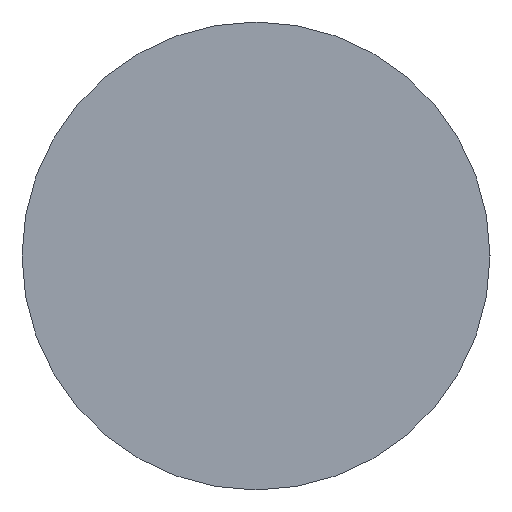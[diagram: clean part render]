
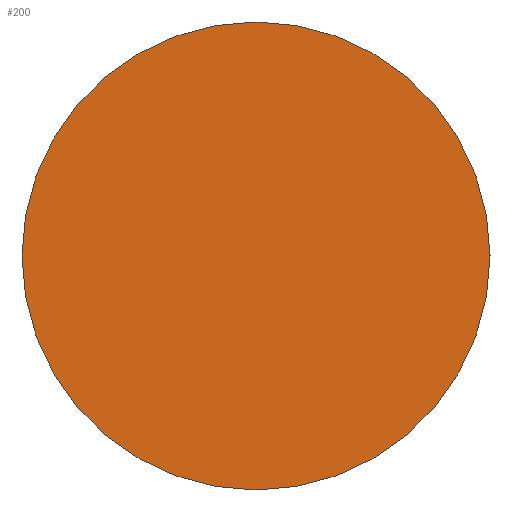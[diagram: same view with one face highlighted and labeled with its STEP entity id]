
A CAD part, left-side view. The second image highlights one B-rep face of the part: STEP entity #200.
In plain terms, the highlighted planar face has unit normal (-1, 0, 0).
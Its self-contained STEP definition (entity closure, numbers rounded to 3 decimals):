
#15 = CIRCLE ( 'NONE', #161, 3. ) ;
#19 = CARTESIAN_POINT ( 'NONE',  ( 0., -3., 0. ) ) ;
#67 = EDGE_CURVE ( 'NONE', #80, #101, #15, .T. ) ;
#80 = VERTEX_POINT ( 'NONE', #19 ) ;
#84 = EDGE_CURVE ( 'NONE', #101, #80, #245, .T. ) ;
#89 = DIRECTION ( 'NONE',  ( 1., 0., 0. ) ) ;
#97 = DIRECTION ( 'NONE',  ( 0., -1., 0. ) ) ;
#101 = VERTEX_POINT ( 'NONE', #249 ) ;
#107 = DIRECTION ( 'NONE',  ( -1., 0., 0. ) ) ;
#109 = AXIS2_PLACEMENT_3D ( 'NONE', #196, #272, #213 ) ;
#114 = PLANE ( 'NONE',  #197 ) ;
#119 = ORIENTED_EDGE ( 'NONE', *, *, #84, .F. ) ;
#143 = CARTESIAN_POINT ( 'NONE',  ( 0., 0., 0. ) ) ;
#146 = DIRECTION ( 'NONE',  ( 0., 1., 0. ) ) ;
#156 = ORIENTED_EDGE ( 'NONE', *, *, #67, .F. ) ;
#161 = AXIS2_PLACEMENT_3D ( 'NONE', #204, #89, #146 ) ;
#180 = FACE_OUTER_BOUND ( 'NONE', #220, .T. ) ;
#196 = CARTESIAN_POINT ( 'NONE',  ( 0., 0., 0. ) ) ;
#197 = AXIS2_PLACEMENT_3D ( 'NONE', #143, #107, #97 ) ;
#200 = ADVANCED_FACE ( 'NONE', ( #180 ), #114, .T. ) ;
#204 = CARTESIAN_POINT ( 'NONE',  ( 0., 0., 0. ) ) ;
#213 = DIRECTION ( 'NONE',  ( 0., 1., 0. ) ) ;
#220 = EDGE_LOOP ( 'NONE', ( #119, #156 ) ) ;
#245 = CIRCLE ( 'NONE', #109, 3. ) ;
#249 = CARTESIAN_POINT ( 'NONE',  ( 0., 3., 0. ) ) ;
#272 = DIRECTION ( 'NONE',  ( 1., 0., 0. ) ) ;
